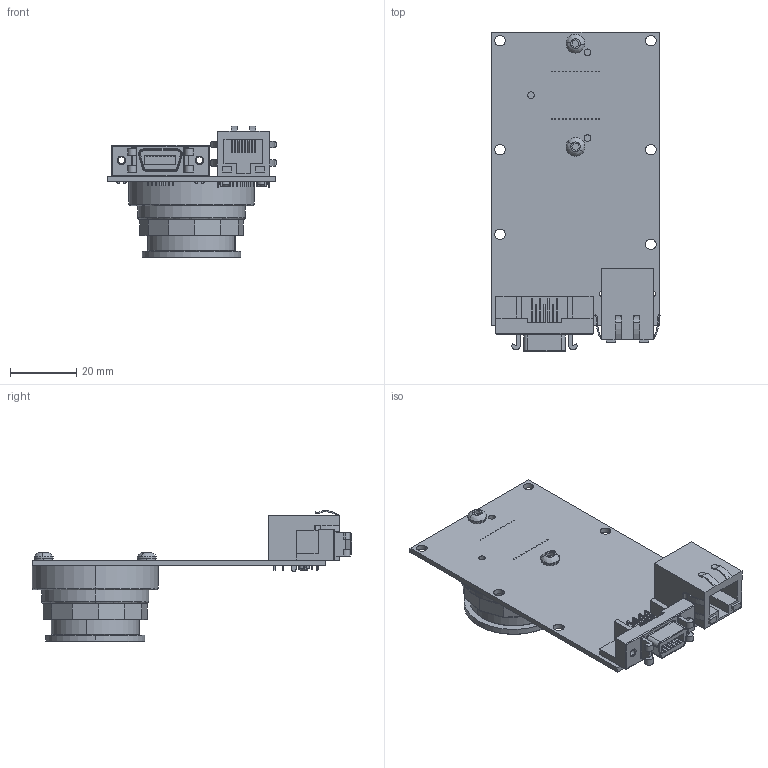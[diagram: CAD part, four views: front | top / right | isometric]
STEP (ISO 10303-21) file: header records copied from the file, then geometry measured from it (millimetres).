
FILE_DESCRIPTION (( 'STEP AP214' ), '1' );
FILE_NAME ('GB2450.STEP', '2013-07-31T22:56:34', ( '' ), ( '' ), 'SwSTEP 2.0', 'SolidWorks 2013', '' );
FILE_SCHEMA (( 'AUTOMOTIVE_DESIGN' ));
Length unit declared in the file: millimetre
Products named in the file (16): 110094A-GB CCD GASKET; 140027-SCREW BUTTON M3x6 SS; 200085B-GB2450-LS-RA; 200083B-GB2450-LS; 210046B-GB1380-650-LS; 260039-3M 10214-55G3PC; 260036-HALO HFJ11-1G16E-L12RL; 110078A-GB MOUNT; 140008-washer spring lock #4; 140004-LOW COST C-MOUNT CAP; 110003AC-CV CMOUNT RING; 220100-SONY ICX625ALA; SONY ICX625 BODY; SONY ICX625 WINDOW; 110031A-B EC-CCD LOCKING RING; GB2450
Assembly tree (17 placements, depth 4):
  GB2450
    110031A-B EC-CCD LOCKING RING
    220100-SONY ICX625ALA
      SONY ICX625 WINDOW
      SONY ICX625 BODY
    110003AC-CV CMOUNT RING
    140004-LOW COST C-MOUNT CAP
    140008-washer spring lock #4  x2
    110078A-GB MOUNT
    200085B-GB2450-LS-RA
      260036-HALO HFJ11-1G16E-L12RL
      260039-3M 10214-55G3PC
      200083B-GB2450-LS
        210046B-GB1380-650-LS
    140027-SCREW BUTTON M3x6 SS  x2
    110094A-GB CCD GASKET
Bounding box: 51.12 x 96.77 x 39.92 mm (x, y, z)
Volume: 21411.6 mm3; surface area: 28847 mm2
Topology: 14 solids, 14 shells, 1448 faces, 3752 edges, 2381 vertices
Faces by surface type: plane 902, cylinder 340, cone 180, bspline 26
Entity records: 60723 total; most frequent: CARTESIAN_POINT 9012, ORIENTED_EDGE 7376, DIRECTION 7293, EDGE_CURVE 3688, VECTOR 2765, LINE 2765, VERTEX_POINT 2345, AXIS2_PLACEMENT_3D 2264
